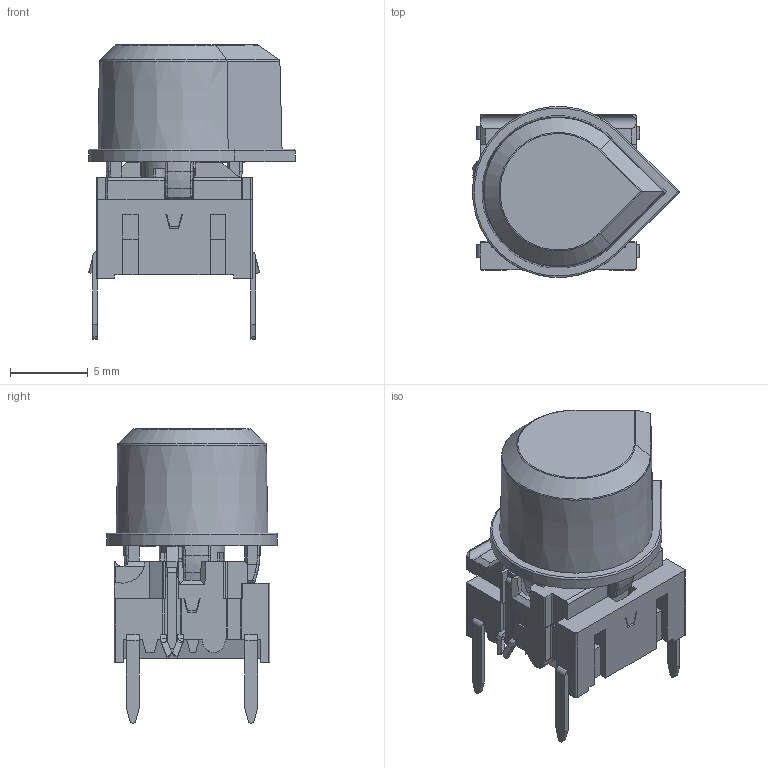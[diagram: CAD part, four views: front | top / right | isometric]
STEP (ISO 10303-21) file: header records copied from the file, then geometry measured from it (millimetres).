
FILE_DESCRIPTION(/* description */ (''),/* implementation_level */ '2;1');
FILE_NAME(/* name */ 'C:\Users\cgh.MEC\Desktop\Traceparts - 3D programserie\STEP filer\il-TH\5GTH9xxxxxxx+1NS.stp',/* time_stamp */ '2016-02-29T07:44:57+01:00',/* author */ ('cgh'),/* organization */ (''),/* preprocessor_version */ 'ST-DEVELOPER v15.2',/* originating_system */ 'Autodesk Inventor 2014',/* authorisation */ '');
FILE_SCHEMA (('AUTOMOTIVE_DESIGN { 1 0 10303 214 3 1 1 }'));
Length unit declared in the file: centimetre
Products named in the file (1): cgh
Bounding box: 13.27 x 10.96 x 18.91 mm (x, y, z)
Volume: 732.6 mm3; surface area: 1768.4 mm2
Topology: 1 solids, 1 shells, 1380 faces, 3873 edges, 2514 vertices
Faces by surface type: plane 864, cylinder 226, bspline 162, torus 68, cone 45, sphere 15
Full cylindrical faces by diameter (mm): 0.9 x1, 1 x3, 2.8 x1, 4.73 x1, 6.5 x1, 7.2 x1, 7.44 x1
Entity records: 48392 total; most frequent: CARTESIAN_POINT 12445, ORIENTED_EDGE 7652, DIRECTION 6525, EDGE_CURVE 3826, VERTEX_POINT 2502, LINE 2493, VECTOR 2493, AXIS2_PLACEMENT_3D 2016
